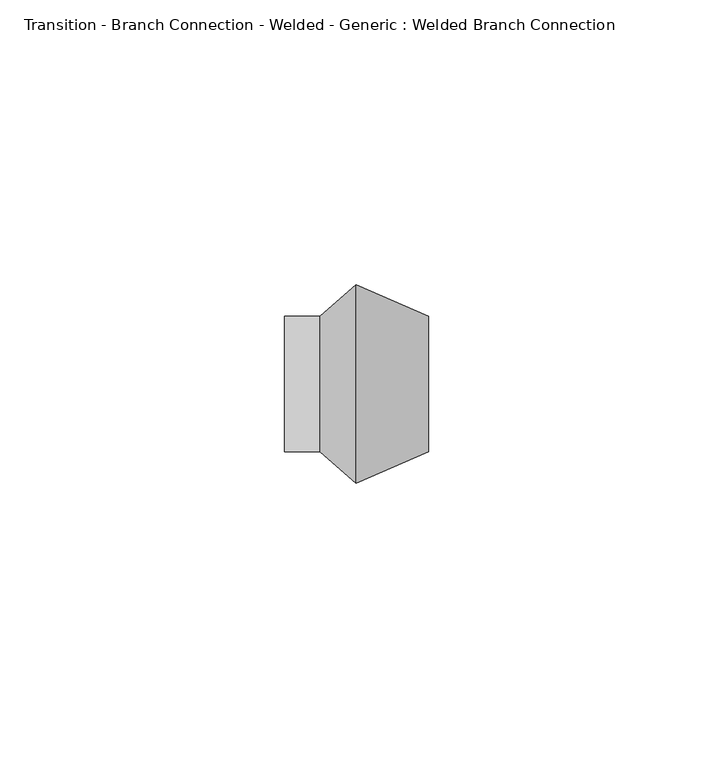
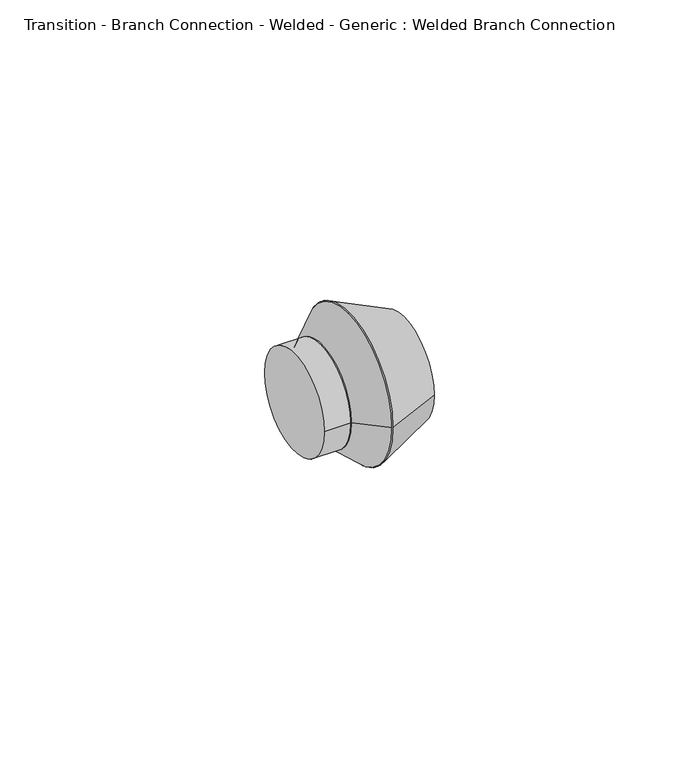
"""IFC4 building model written with IfcOpenShell, lengths in millimetres: pipe fitting geometry, Transition - Branch Connection - Welded - Generic : Welded Branch Connection."""

from ifc_helpers import new_model, si_unit, point, frame, origin, origin_2d, place, context, project, spatial, polyline, circle_curve, trimmed, segment, composite_curve, outline, extrude, source, transform, mapped, element, save
from ifc_brep_helpers import plane_surface, revolved_surface, advanced_brep


def transition_branch_connection_welded_generic_welded_branch_c6824d9c(model_context):
    return source(origin(), model_context, "Body", "SolidModel", [
        advanced_brep(
        [(6.35, -17.4625, 0.0), (6.35, 17.4625, 0.0), (19.05, -11.90625, 0.0), (19.05, 11.90625, 0.0)],
        [
            (0, 1, circle_curve(frame((6.35, 0.0, 0.0), z_axis=(-1.0, 0.0, 0.0), x_axis=(0.0, -1.0, 0.0)), 17.4625)),
            (1, 0, circle_curve(frame((6.35, 0.0, 0.0), z_axis=(-1.0, 0.0, 0.0), x_axis=(0.0, 1.0, 0.0)), 17.4625)),
            (2, 3, circle_curve(frame((19.05, 0.0, 0.0), z_axis=(1.0, 0.0, 0.0), x_axis=(0.0, 1.0, 0.0)), 11.90625)),
            (3, 2, circle_curve(frame((19.05, 0.0, 0.0), z_axis=(1.0, 0.0, 0.0), x_axis=(0.0, -1.0, 0.0)), 11.90625)),
            (2, 0),
            (1, 3),
        ],
        [
            plane_surface(frame((6.35, 0.0, 0.0), z_axis=(-1.0, 0.0, 0.0), x_axis=(0.0, 0.0, -1.0))),
            plane_surface(frame((19.05, 0.0, 0.0), z_axis=(1.0, 0.0, 0.0), x_axis=(0.0, 0.0, -1.0))),
            revolved_surface(polyline([(19.05, -11.906249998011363, 0.0), (6.350000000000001, -17.4625, 0.0)]), (46.2642857, 0.0, 0.0), (-1.0, 0.0, 0.0)),
            revolved_surface(polyline([(19.05, 11.906249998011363, 0.0), (6.350000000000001, 17.4625, 0.0)]), (46.2642857, 0.0, 0.0), (-1.0, 0.0, 0.0)),
        ],
        [
            (0, [[1, 2]]),
            (1, [[3, 4]]),
            (2, [[-3, 5, -2, 6]]),
            (3, [[-4, -6, -1, -5]]),
        ],
    ),
        advanced_brep(
        [(6.35, -17.4625, 0.0), (6.35, 17.4625, 0.0), (0.0, -11.90625, 0.0), (0.0, 11.90625, 0.0)],
        [
            (0, 1, circle_curve(frame((6.35, 0.0, 0.0), z_axis=(1.0, 0.0, 0.0), x_axis=(0.0, -1.0, 0.0)), 17.4625)),
            (1, 0, circle_curve(frame((6.35, 0.0, 0.0), z_axis=(1.0, 0.0, 0.0), x_axis=(0.0, 1.0, 0.0)), 17.4625)),
            (2, 3, circle_curve(frame((0.0, 0.0, 0.0), z_axis=(-1.0, 0.0, 0.0), x_axis=(0.0, 1.0, 0.0)), 11.90625)),
            (3, 2, circle_curve(frame((0.0, 0.0, 0.0), z_axis=(-1.0, 0.0, 0.0), x_axis=(0.0, -1.0, 0.0)), 11.90625)),
            (3, 1),
            (0, 2),
        ],
        [
            plane_surface(frame((6.35, 0.0, 0.0), z_axis=(1.0, 0.0, 0.0), x_axis=(0.0, 0.0, -1.0))),
            plane_surface(frame((0.0, 0.0, 0.0), z_axis=(-1.0, 0.0, 0.0), x_axis=(0.0, 0.0, -1.0))),
            revolved_surface(polyline([(0.0, 11.906250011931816, 0.0), (6.350000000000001, 17.4625, 0.0)]), (-13.6071429, 0.0, 0.0), (1.0, 0.0, 0.0)),
            revolved_surface(polyline([(0.0, -11.906250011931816, 0.0), (6.350000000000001, -17.4625, 0.0)]), (-13.6071429, 0.0, 0.0), (1.0, 0.0, 0.0)),
        ],
        [
            (0, [[1, 2]]),
            (1, [[3, 4]]),
            (2, [[-4, 5, -1, 6]]),
            (3, [[-3, -6, -2, -5]]),
        ],
    ),
        extrude(outline(composite_curve([segment(trimmed(circle_curve(origin_2d(), 11.90625), [point((-11.90625, 0.0))], [point((11.90625, 0.0))], False, "CARTESIAN"), True, "CONTINUOUS"), segment(trimmed(circle_curve(origin_2d(), 11.90625), [point((11.90625, 0.0))], [point((-11.90625, 0.0))], False, "CARTESIAN"), True, "CONTINUOUS")], self_intersect=False)), frame((-6.2802813, 0.0, 0.0), z_axis=(1.0, 0.0, 0.0), x_axis=(0.0, 1.0, 0.0)), (0.0, 0.0, 1.0), 6.2802813),
    ])


if __name__ == "__main__":
    model = new_model("IFC4")
    model_context = context("Model", 3, world=origin())
    ifc_project = project(units=[si_unit("LENGTHUNIT", "METRE", prefix="MILLI")], contexts=[model_context])
    site = spatial("IfcSite", under=ifc_project)
    building = spatial("IfcBuilding", under=site)
    placement = place(None, origin())
    transition_branch_connection_welded_generic_welded_branch_shape = transition_branch_connection_welded_generic_welded_branch_c6824d9c(model_context)
    element("IfcPipeFitting", 1, ObjectType="Transition - Branch Connection - Welded - Generic : Welded Branch Connection", at=placement, inside=building, context=model_context, shape_type="MappedRepresentation", body=[
        mapped(transition_branch_connection_welded_generic_welded_branch_shape, transform((0.0, 0.0, 0.0), x_axis=(1.0, 0.0, 0.0), y_axis=(0.0, 1.0, 0.0), z_axis=(0.0, 0.0, 1.0))),
    ])
    save(model, "model.ifc")
